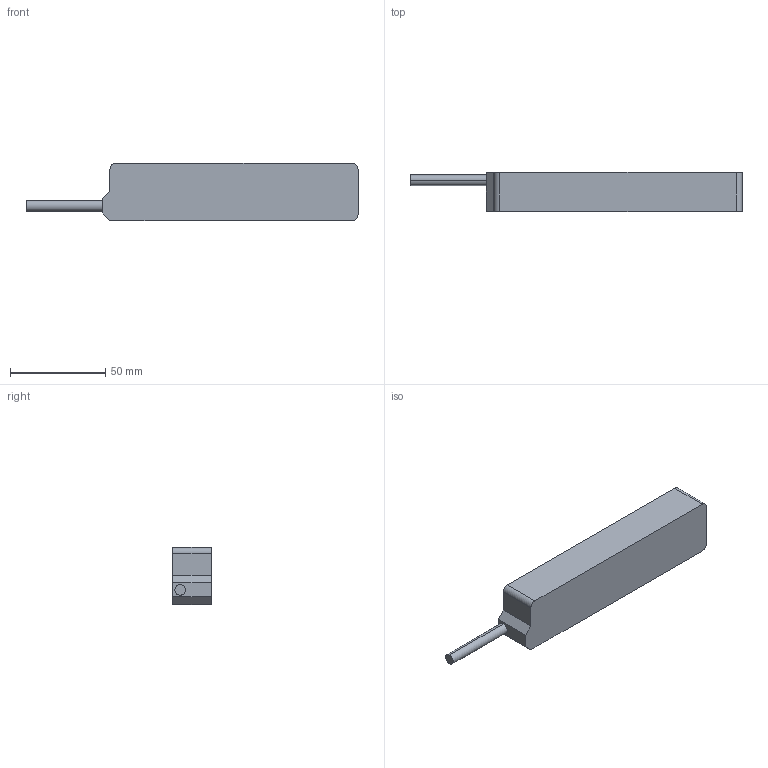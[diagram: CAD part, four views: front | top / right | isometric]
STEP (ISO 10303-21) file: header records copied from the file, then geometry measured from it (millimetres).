
FILE_DESCRIPTION (( 'STEP AP203' ), '1' );
FILE_NAME ('DPN30C4.STEP', '2017-12-15T06:46:20', ( 'Windows 蚚誧' ), ( '' ), 'SwSTEP 2.0', 'SolidWorks 2016', '' );
FILE_SCHEMA (( 'CONFIG_CONTROL_DESIGN' ));
Length unit declared in the file: millimetre
Products named in the file (1): DPN30C4
Bounding box: 174 x 20.4 x 30 mm (x, y, z)
Volume: 81137.2 mm3; surface area: 15520.2 mm2
Topology: 1 solids, 1 shells, 63 faces, 156 edges, 84 vertices
Faces by surface type: cylinder 29, cone 24, plane 10
Entity records: 1765 total; most frequent: DIRECTION 318, CARTESIAN_POINT 280, ORIENTED_EDGE 264, EDGE_CURVE 132, AXIS2_PLACEMENT_3D 122, VERTEX_POINT 84, EDGE_LOOP 76, LINE 74
